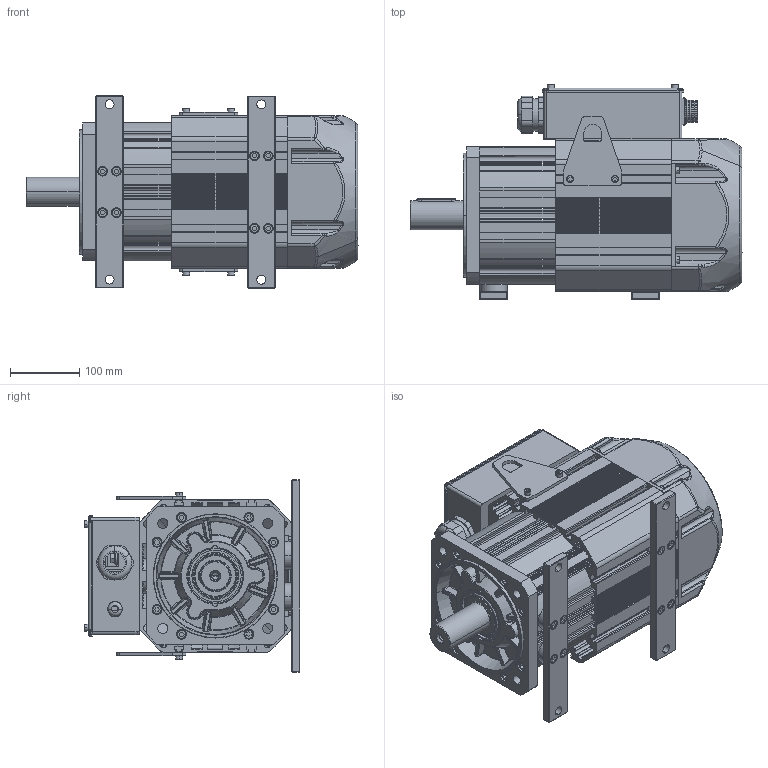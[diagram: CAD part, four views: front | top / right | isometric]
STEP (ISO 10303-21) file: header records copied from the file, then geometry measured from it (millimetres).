
FILE_DESCRIPTION((''),'2;1');
FILE_NAME('80N___SW0001','2025-08-25T08:48:55',('0109502'),(''),'CREO PARAMETRIC BY PTC INC, 2019080','CREO PARAMETRIC BY PTC INC, 2019080','');
FILE_SCHEMA(('CONFIG_CONTROL_DESIGN'));
Products named in the file (1): 80N___SW0001
Bounding box: 481 x 312.5 x 278.25 mm (x, y, z)
Surface area: 1514419.3 mm2 (no closed solid volume)
Topology: 0 solids, 197 shells, 3420 faces, 11652 edges, 8274 vertices
Faces by surface type: plane 1576, cylinder 1146, torus 268, bspline 218, cone 186, sphere 26
Entity records: 142731 total; most frequent: CARTESIAN_POINT 42022, DIRECTION 21268, ORIENTED_EDGE 19356, EDGE_CURVE 11632, VERTEX_POINT 8274, AXIS2_PLACEMENT_3D 7241, VECTOR 6786, LINE 6786
